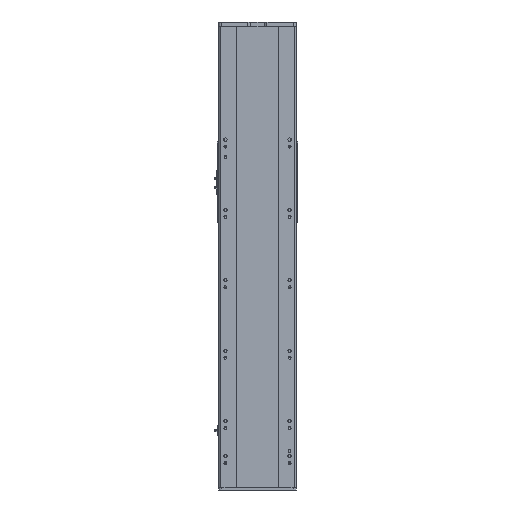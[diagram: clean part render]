
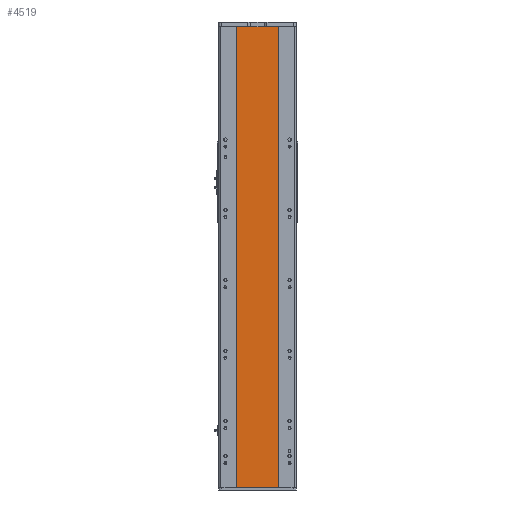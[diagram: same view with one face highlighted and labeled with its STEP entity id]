
A CAD part, front view. The second image highlights one B-rep face of the part: STEP entity #4519.
In plain terms, the highlighted planar face has unit normal (0, -1, 0).
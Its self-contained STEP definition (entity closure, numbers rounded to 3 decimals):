
#4372 = LINE ( 'NONE', #36174, #7089 ) ;
#4494 = EDGE_CURVE ( 'NONE', #27539, #26137, #24999, .T. ) ;
#4519 = ADVANCED_FACE ( 'NONE', ( #35560 ), #37698, .F. ) ;
#7089 = VECTOR ( 'NONE', #24535, 1000. ) ;
#7945 = AXIS2_PLACEMENT_3D ( 'NONE', #34632, #22874, #34379 ) ;
#10533 = DIRECTION ( 'NONE',  ( 1., 0., 0. ) ) ;
#10947 = VERTEX_POINT ( 'NONE', #12654 ) ;
#11520 = EDGE_LOOP ( 'NONE', ( #37212, #35958, #16886, #20424 ) ) ;
#12654 = CARTESIAN_POINT ( 'NONE',  ( -59., 1., 655.5 ) ) ;
#13448 = CARTESIAN_POINT ( 'NONE',  ( -59., 1., -655.5 ) ) ;
#14489 = VECTOR ( 'NONE', #10533, 1000. ) ;
#15671 = VECTOR ( 'NONE', #27171, 1000. ) ;
#16126 = CARTESIAN_POINT ( 'NONE',  ( -59., 1., -655.5 ) ) ;
#16810 = EDGE_CURVE ( 'NONE', #10947, #30370, #17956, .T. ) ;
#16886 = ORIENTED_EDGE ( 'NONE', *, *, #16810, .F. ) ;
#17915 = CARTESIAN_POINT ( 'NONE',  ( 59., 1., -655.5 ) ) ;
#17956 = LINE ( 'NONE', #18002, #15671 ) ;
#18002 = CARTESIAN_POINT ( 'NONE',  ( -59., 1., 655.5 ) ) ;
#18550 = VECTOR ( 'NONE', #32030, 1000. ) ;
#20424 = ORIENTED_EDGE ( 'NONE', *, *, #27123, .T. ) ;
#22874 = DIRECTION ( 'NONE',  ( 0., 1., 0. ) ) ;
#24535 = DIRECTION ( 'NONE',  ( 0., 0., -1. ) ) ;
#24999 = LINE ( 'NONE', #16126, #14489 ) ;
#26137 = VERTEX_POINT ( 'NONE', #17915 ) ;
#26168 = CARTESIAN_POINT ( 'NONE',  ( 59., 1., 655.5 ) ) ;
#27123 = EDGE_CURVE ( 'NONE', #10947, #27539, #4372, .T. ) ;
#27171 = DIRECTION ( 'NONE',  ( 1., 0., 0. ) ) ;
#27539 = VERTEX_POINT ( 'NONE', #13448 ) ;
#28889 = EDGE_CURVE ( 'NONE', #30370, #26137, #35975, .T. ) ;
#29606 = CARTESIAN_POINT ( 'NONE',  ( 59., 1., 655.5 ) ) ;
#30370 = VERTEX_POINT ( 'NONE', #26168 ) ;
#32030 = DIRECTION ( 'NONE',  ( 0., 0., -1. ) ) ;
#34379 = DIRECTION ( 'NONE',  ( -1., 0., 0. ) ) ;
#34632 = CARTESIAN_POINT ( 'NONE',  ( -59., 1., 655.5 ) ) ;
#35560 = FACE_OUTER_BOUND ( 'NONE', #11520, .T. ) ;
#35958 = ORIENTED_EDGE ( 'NONE', *, *, #28889, .F. ) ;
#35975 = LINE ( 'NONE', #29606, #18550 ) ;
#36174 = CARTESIAN_POINT ( 'NONE',  ( -59., 1., 655.5 ) ) ;
#37212 = ORIENTED_EDGE ( 'NONE', *, *, #4494, .T. ) ;
#37698 = PLANE ( 'NONE',  #7945 ) ;
